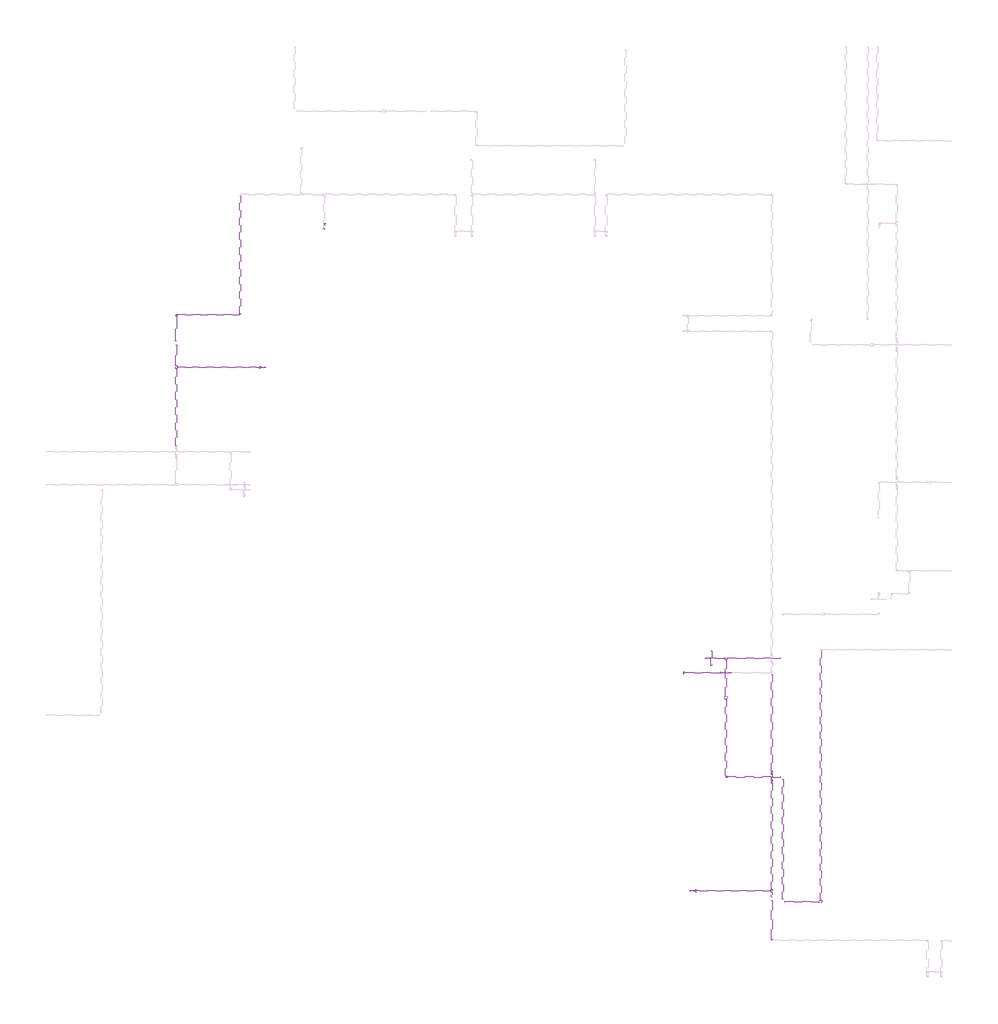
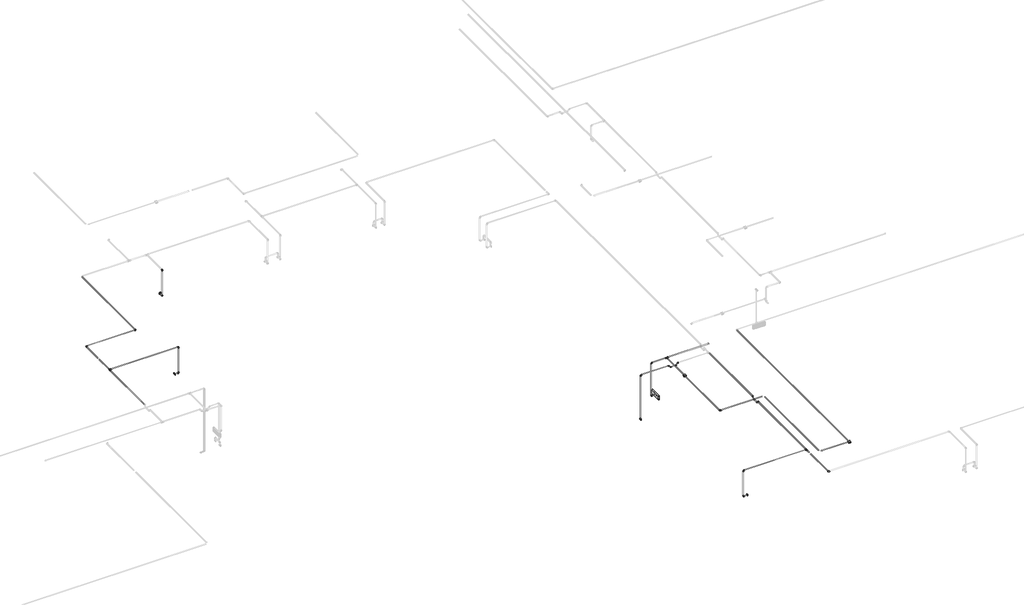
# One storey, part 8 of 40: 35 cable carrier segments, 24 cable carrier fittings, 4 electric appliances, 3 alarms.
"""IFC4 building model written with IfcOpenShell, lengths in millimetres."""

from ifc_helpers import new_model, si_unit, point, frame, frame_2d, origin, place, context, project, spatial, circle_curve, trimmed, segment, composite_curve, outline, extrude, transform, mapped, element, save
from components import alarm_4b7e8fd8, alarm_a2247946, cable_carrier_fitting_69f1a801, cable_carrier_fitting_8122f9af, cable_carrier_fitting_8fd13dfc, electric_appliance_5961a143

model = new_model("IFC4")

# Units and contexts
model_context = context("Model", 3, world=origin())
ifc_project = project(units=[si_unit("LENGTHUNIT", "METRE", prefix="MILLI")], contexts=[model_context])

# Site, building, storey
site = spatial("IfcSite", under=ifc_project)
building = spatial("IfcBuilding", under=site)
storey = spatial("IfcBuildingStorey", under=building, Name="1 этаж", Elevation=0.0)

# Alarms
placement = place(None, origin())
alarm_shape = alarm_4b7e8fd8(model_context)
element("IfcAlarm", 1, ObjectType="RBZ_Оповещатель_Световой_Рубеж_ОПОП1-R3(грань) : ОПОП 1-R3 \"Выход\"", at=placement, inside=storey, context=model_context, shape_type="MappedRepresentation", body=[
    mapped(alarm_shape, transform((5447.6759979, -8670.3629895, 2300.0), x_axis=(0.0, 1.0, 0.0), y_axis=(0.0, 0.0, 1.0), z_axis=(1.0, 0.0, 0.0))),
])
alarm_2_shape = alarm_a2247946(model_context)
element("IfcAlarm", 2, ObjectType="RBZ_ИзоляторШлейфа_Рубеж_ИЗ-1_прот.R3(плоскость) : ИЗ-1 прот.R3", at=placement, inside=storey, context=model_context, shape_type="MappedRepresentation", body=[
    mapped(alarm_2_shape, transform((7617.6759979, -13478.8629895, 3200.75), x_axis=(1.0, 0.0, 0.0), y_axis=(0.0, 1.0, 0.0), z_axis=(0.0, 0.0, 1.0))),
])
element("IfcAlarm", 3, ObjectType="RBZ_ИзоляторШлейфа_Рубеж_ИЗ-1_прот.R3(плоскость) : ИЗ-1 прот.R3", at=placement, inside=storey, context=model_context, shape_type="MappedRepresentation", body=[
    mapped(alarm_2_shape, transform((5748.4601249, -9451.8629895, 3200.75), x_axis=(1.0, 0.0, 0.0), y_axis=(0.0, 1.0, 0.0), z_axis=(0.0, 0.0, 1.0))),
])

# Cable carrier fittings
cable_carrier_fitting_shape = cable_carrier_fitting_69f1a801(model_context)
element("IfcCableCarrierFitting", 4, ObjectType="ADSK_Поворот_Минимальный размер : Неспецифицируемый", at=placement, inside=storey, context=model_context, shape_type="MappedRepresentation", body=[
    mapped(cable_carrier_fitting_shape, transform((5748.4601249, -11017.8629895, 3190.0), x_axis=(0.0, -1.0, 0.0), y_axis=(1.0, 0.0, 0.0), z_axis=(0.0, 0.0, 1.0))),
])
element("IfcCableCarrierFitting", 5, ObjectType="ADSK_Поворот_Минимальный размер : Неспецифицируемый", at=placement, inside=storey, context=model_context, shape_type="MappedRepresentation", body=[
    mapped(cable_carrier_fitting_shape, transform((5043.4761923, -13265.3629895, 2488.0911237), x_axis=(-1.0, 0.0, 0.0), y_axis=(0.0, 0.0, 1.0), z_axis=(0.0, 1.0, 0.0))),
])
element("IfcCableCarrierFitting", 6, ObjectType="ADSK_Поворот_Минимальный размер : Неспецифицируемый", at=placement, inside=storey, context=model_context, shape_type="MappedRepresentation", body=[
    mapped(cable_carrier_fitting_shape, transform((6652.6759979, -14242.3629895, 3187.0), x_axis=(0.0, -1.0, 0.0), y_axis=(1.0, 0.0, 0.0), z_axis=(0.0, 0.0, 1.0))),
])
element("IfcCableCarrierFitting", 7, ObjectType="ADSK_Поворот_Минимальный размер : Неспецифицируемый", at=placement, inside=storey, context=model_context, shape_type="MappedRepresentation", body=[
    mapped(cable_carrier_fitting_shape, transform((5350.4761923, -8670.3629895, 2300.0), x_axis=(-1.0, 0.0, 0.0), y_axis=(0.0, 0.0, 1.0), z_axis=(0.0, 1.0, 0.0))),
])
element("IfcCableCarrierFitting", 8, ObjectType="ADSK_Поворот_Минимальный размер : Неспецифицируемый", at=placement, inside=storey, context=model_context, shape_type="MappedRepresentation", body=[
    mapped(cable_carrier_fitting_shape, transform((5350.4761923, -8670.3629895, 3190.0), x_axis=(0.0, 0.0, 1.0), y_axis=(1.0, 0.0, 0.0), z_axis=(0.0, 1.0, 0.0))),
])
element("IfcCableCarrierFitting", 9, ObjectType="ADSK_Поворот_Минимальный размер : Неспецифицируемый", at=placement, inside=storey, context=model_context, shape_type="MappedRepresentation", body=[
    mapped(cable_carrier_fitting_shape, transform((-2197.3240021, -179.5627951, 2488.0911237), x_axis=(0.0, -1.0, 0.0), y_axis=(0.0, 0.0, 1.0), z_axis=(-1.0, 0.0, 0.0))),
])
element("IfcCableCarrierFitting", 10, ObjectType="ADSK_Поворот_Минимальный размер : Неспецифицируемый", at=placement, inside=storey, context=model_context, shape_type="MappedRepresentation", body=[
    mapped(cable_carrier_fitting_shape, transform((-2197.3240021, -179.5627951, 3187.0), x_axis=(0.0, 0.0, 1.0), y_axis=(0.0, 1.0, 0.0), z_axis=(-1.0, 0.0, 0.0))),
])
element("IfcCableCarrierFitting", 11, ObjectType="ADSK_Поворот_Минимальный размер : Неспецифицируемый", at=placement, inside=storey, context=model_context, shape_type="MappedRepresentation", body=[
    mapped(cable_carrier_fitting_shape, transform((-3368.1241965, -2922.8629895, 2488.0911237), x_axis=(1.0, 0.0, 0.0), y_axis=(0.0, 0.0, 1.0), z_axis=(0.0, -1.0, 0.0))),
])
element("IfcCableCarrierFitting", 12, ObjectType="ADSK_Поворот_Минимальный размер : Неспецифицируемый", at=placement, inside=storey, context=model_context, shape_type="MappedRepresentation", body=[
    mapped(cable_carrier_fitting_shape, transform((-5122.3240021, -1880.3629895, 3187.0), x_axis=(-1.0, 0.0, 0.0), y_axis=(0.0, -1.0, 0.0), z_axis=(0.0, 0.0, 1.0))),
])
element("IfcCableCarrierFitting", 13, ObjectType="ADSK_Поворот_Минимальный размер : Неспецифицируемый", at=placement, inside=storey, context=model_context, shape_type="MappedRepresentation", body=[
    mapped(cable_carrier_fitting_shape, transform((-3368.1241965, -2922.8629895, 3187.0), x_axis=(0.0, 0.0, 1.0), y_axis=(-1.0, 0.0, 0.0), z_axis=(0.0, -1.0, 0.0))),
])
element("IfcCableCarrierFitting", 14, ObjectType="ADSK_Поворот_Минимальный размер : Неспецифицируемый", at=placement, inside=storey, context=model_context, shape_type="MappedRepresentation", body=[
    mapped(cable_carrier_fitting_shape, transform((5043.4761923, -13265.3629895, 3187.0), x_axis=(0.0, 0.0, 1.0), y_axis=(1.0, 0.0, 0.0), z_axis=(0.0, 1.0, 0.0))),
])
element("IfcCableCarrierFitting", 15, ObjectType="ADSK_Поворот_Минимальный размер : Неспецифицируемый", at=placement, inside=storey, context=model_context, shape_type="MappedRepresentation", body=[
    mapped(cable_carrier_fitting_shape, transform((4914.6759979, -8957.6730001, 3187.0), x_axis=(0.0, 0.0, 1.0), y_axis=(1.0, 0.0, 0.0), z_axis=(0.0, 1.0, 0.0))),
])
element("IfcCableCarrierFitting", 16, ObjectType="ADSK_Поворот_Минимальный размер : Неспецифицируемый", at=placement, inside=storey, context=model_context, shape_type="MappedRepresentation", body=[
    mapped(cable_carrier_fitting_shape, transform((-3859.8800716, -1880.3629895, 3187.0), x_axis=(1.0, 0.0, 0.0), y_axis=(0.0, 1.0, 0.0), z_axis=(0.0, 0.0, 1.0))),
])
cable_carrier_fitting_2_shape = cable_carrier_fitting_8122f9af(model_context)
element("IfcCableCarrierFitting", 17, ObjectType="ADSK_Поворот_Минимальный размер : Неспецифицируемый", at=placement, inside=storey, context=model_context, shape_type="MappedRepresentation", body=[
    mapped(cable_carrier_fitting_2_shape, transform((6652.6759979, -10951.2907182, 3137.0), x_axis=(0.0, -0.7071067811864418, -0.7071067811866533), y_axis=(0.0, -0.7071067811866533, 0.7071067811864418), z_axis=(-1.0, 0.0, 0.0))),
])
element("IfcCableCarrierFitting", 18, ObjectType="ADSK_Поворот_Минимальный размер : Неспецифицируемый", at=placement, inside=storey, context=model_context, shape_type="MappedRepresentation", body=[
    mapped(cable_carrier_fitting_2_shape, transform((6652.6759979, -11084.4352607, 3137.0), x_axis=(0.0, -1.0, 0.0), y_axis=(0.0, 0.0, 1.0), z_axis=(-1.0, 0.0, 0.0))),
])
element("IfcCableCarrierFitting", 19, ObjectType="ADSK_Поворот_Минимальный размер : Неспецифицируемый", at=placement, inside=storey, context=model_context, shape_type="MappedRepresentation", body=[
    mapped(cable_carrier_fitting_2_shape, transform((5815.0323962, -8957.6730001, 3137.0), x_axis=(-0.7071067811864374, 0.0, -0.7071067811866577), y_axis=(-0.7071067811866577, 0.0, 0.7071067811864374), z_axis=(0.0, 1.0, 0.0))),
])
element("IfcCableCarrierFitting", 20, ObjectType="ADSK_Поворот_Минимальный размер : Неспецифицируемый", at=placement, inside=storey, context=model_context, shape_type="MappedRepresentation", body=[
    mapped(cable_carrier_fitting_2_shape, transform((5681.8878537, -8957.6730001, 3137.0), x_axis=(-1.0, 0.0, 0.0), y_axis=(0.0, 0.0, 1.0), z_axis=(0.0, 1.0, 0.0))),
])
element("IfcCableCarrierFitting", 21, ObjectType="ADSK_Поворот_Минимальный размер : Неспецифицируемый", at=placement, inside=storey, context=model_context, shape_type="MappedRepresentation", body=[
    mapped(cable_carrier_fitting_2_shape, transform((5631.8878537, -8957.6730001, 3187.0), x_axis=(-0.7071067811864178, 0.0, 0.7071067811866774), y_axis=(-0.7071067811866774, 0.0, -0.7071067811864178), z_axis=(0.0, -1.0, 0.0))),
])
element("IfcCableCarrierFitting", 22, ObjectType="ADSK_Поворот_Минимальный размер : Неспецифицируемый", at=placement, inside=storey, context=model_context, shape_type="MappedRepresentation", body=[
    mapped(cable_carrier_fitting_2_shape, transform((6652.6759979, -10901.2907182, 3187.0), x_axis=(0.0, 0.7071067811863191, 0.707106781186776), y_axis=(0.0, 0.707106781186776, -0.7071067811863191), z_axis=(-1.0, 0.0, 0.0))),
])
element("IfcCableCarrierFitting", 23, ObjectType="ADSK_Поворот_Минимальный размер : Неспецифицируемый", at=placement, inside=storey, context=model_context, shape_type="MappedRepresentation", body=[
    mapped(cable_carrier_fitting_2_shape, transform((5865.0323962, -8957.6730001, 3187.0), x_axis=(0.7071067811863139, 0.0, 0.7071067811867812), y_axis=(0.7071067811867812, 0.0, -0.7071067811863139), z_axis=(0.0, 1.0, 0.0))),
])
element("IfcCableCarrierFitting", 24, ObjectType="ADSK_Поворот_Минимальный размер : Неспецифицируемый", at=placement, inside=storey, context=model_context, shape_type="MappedRepresentation", body=[
    mapped(cable_carrier_fitting_2_shape, transform((6652.6759979, -11134.4352607, 3187.0), x_axis=(0.0, -0.7071067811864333, 0.7071067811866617), y_axis=(0.0, -0.7071067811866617, -0.7071067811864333), z_axis=(1.0, 0.0, 0.0))),
])
cable_carrier_fitting_3_shape = cable_carrier_fitting_8fd13dfc(model_context)
element("IfcCableCarrierFitting", 25, ObjectType="ADSK_Тройник : ПВХ", at=placement, inside=storey, context=model_context, shape_type="MappedRepresentation", body=[
    mapped(cable_carrier_fitting_3_shape, transform((5748.4601249, -8670.3629895, 3190.0), x_axis=(1.0, 0.0, 0.0), y_axis=(0.0, 1.0, 0.0), z_axis=(0.0, 0.0, 1.0))),
])
element("IfcCableCarrierFitting", 26, ObjectType="ADSK_Тройник : ПВХ", at=placement, inside=storey, context=model_context, shape_type="MappedRepresentation", body=[
    mapped(cable_carrier_fitting_3_shape, transform((-5122.3240021, -2922.8629895, 3187.0), x_axis=(0.0, 1.0, 0.0), y_axis=(-1.0, 0.0, 0.0), z_axis=(0.0, 0.0, 1.0))),
])
element("IfcCableCarrierFitting", 27, ObjectType="ADSK_Тройник : ПВХ", at=placement, inside=storey, context=model_context, shape_type="MappedRepresentation", body=[
    mapped(cable_carrier_fitting_3_shape, transform((6652.6759979, -13265.3629895, 3187.0), x_axis=(0.0, -1.0, 0.0), y_axis=(1.0, 0.0, 0.0), z_axis=(0.0, 0.0, 1.0))),
])

# Cable carrier segments
element("IfcCableCarrierSegment", 28, ObjectType="Гофрированная труба", at=placement, inside=storey, context=model_context, shape_type="SweptSolid", body=[
    extrude(outline(composite_curve([segment(trimmed(circle_curve(frame_2d((-13478.8629895, 3190.0)), 10.0), [point((-13468.8629895, 3190.0))], [point((-13478.8629895, 3180.0))], False, "CARTESIAN"), True, "CONTINUOUS"), segment(trimmed(circle_curve(frame_2d((-13478.8629895, 3190.0)), 10.0), [point((-13478.8629895, 3180.0))], [point((-13488.8629895, 3190.0))], False, "CARTESIAN"), True, "CONTINUOUS"), segment(trimmed(circle_curve(frame_2d((-13478.8629895, 3190.0)), 10.0), [point((-13488.8629895, 3190.0))], [point((-13478.8629895, 3200.0))], False, "CARTESIAN"), True, "CONTINUOUS"), segment(trimmed(circle_curve(frame_2d((-13478.8629895, 3190.0)), 10.0), [point((-13478.8629895, 3200.0))], [point((-13468.8629895, 3190.0))], False, "CARTESIAN"), True, "CONTINUOUS")], self_intersect=False)), frame((6914.1759979, 0.0, 0.0), z_axis=(1.0, 0.0, 0.0), x_axis=(0.0, 1.0, 0.0)), (0.0, 0.0, 1.0), 677.5),
])
element("IfcCableCarrierSegment", 29, ObjectType="Гофрированная труба", at=placement, inside=storey, context=model_context, shape_type="SweptSolid", body=[
    extrude(outline(composite_curve([segment(trimmed(circle_curve(frame_2d((3190.0, 7617.6759979)), 10.0), [point((3190.0, 7627.6759979))], [point((3200.0, 7617.6759979))], False, "CARTESIAN"), True, "CONTINUOUS"), segment(trimmed(circle_curve(frame_2d((3190.0, 7617.6759979)), 10.0), [point((3200.0, 7617.6759979))], [point((3190.0, 7607.6759979))], False, "CARTESIAN"), True, "CONTINUOUS"), segment(trimmed(circle_curve(frame_2d((3190.0, 7617.6759979)), 10.0), [point((3190.0, 7607.6759979))], [point((3180.0, 7617.6759979))], False, "CARTESIAN"), True, "CONTINUOUS"), segment(trimmed(circle_curve(frame_2d((3190.0, 7617.6759979)), 10.0), [point((3180.0, 7617.6759979))], [point((3190.0, 7627.6759979))], False, "CARTESIAN"), True, "CONTINUOUS")], self_intersect=False)), frame((0.0, -13452.8629895, 0.0), z_axis=(0.0, 1.0, 0.0), x_axis=(0.0, 0.0, 1.0)), (0.0, 0.0, 1.0), 4926.5),
])
element("IfcCableCarrierSegment", 30, ObjectType="Гофрированная труба", at=placement, inside=storey, context=model_context, shape_type="SweptSolid", body=[
    extrude(outline(composite_curve([segment(trimmed(circle_curve(frame_2d((-11017.8629895, 3190.0)), 10.0), [point((-11007.8629895, 3190.0))], [point((-11017.8629895, 3180.0))], False, "CARTESIAN"), True, "CONTINUOUS"), segment(trimmed(circle_curve(frame_2d((-11017.8629895, 3190.0)), 10.0), [point((-11017.8629895, 3180.0))], [point((-11027.8629895, 3190.0))], False, "CARTESIAN"), True, "CONTINUOUS"), segment(trimmed(circle_curve(frame_2d((-11017.8629895, 3190.0)), 10.0), [point((-11027.8629895, 3190.0))], [point((-11017.8629895, 3200.0))], False, "CARTESIAN"), True, "CONTINUOUS"), segment(trimmed(circle_curve(frame_2d((-11017.8629895, 3190.0)), 10.0), [point((-11017.8629895, 3200.0))], [point((-11007.8629895, 3190.0))], False, "CARTESIAN"), True, "CONTINUOUS")], self_intersect=False)), frame((5769.4601249, 0.0, 0.0), z_axis=(1.0, 0.0, 0.0), x_axis=(0.0, 1.0, 0.0)), (0.0, 0.0, 1.0), 1051.715873),
])
element("IfcCableCarrierSegment", 31, ObjectType="Гофрированная труба", at=placement, inside=storey, context=model_context, shape_type="SweptSolid", body=[
    extrude(outline(composite_curve([segment(trimmed(circle_curve(frame_2d((3190.0, 5748.4601249)), 10.0), [point((3190.0, 5738.4601249))], [point((3180.0, 5748.4601249))], False, "CARTESIAN"), True, "CONTINUOUS"), segment(trimmed(circle_curve(frame_2d((3190.0, 5748.4601249)), 10.0), [point((3180.0, 5748.4601249))], [point((3190.0, 5758.4601249))], False, "CARTESIAN"), True, "CONTINUOUS"), segment(trimmed(circle_curve(frame_2d((3190.0, 5748.4601249)), 10.0), [point((3190.0, 5758.4601249))], [point((3200.0, 5748.4601249))], False, "CARTESIAN"), True, "CONTINUOUS"), segment(trimmed(circle_curve(frame_2d((3190.0, 5748.4601249)), 10.0), [point((3200.0, 5748.4601249))], [point((3190.0, 5738.4601249))], False, "CARTESIAN"), True, "CONTINUOUS")], self_intersect=False)), frame((0.0, -9425.8629895, 0.0), z_axis=(0.0, 1.0, 0.0), x_axis=(0.0, 0.0, 1.0)), (0.0, 0.0, 1.0), 725.5),
])
element("IfcCableCarrierSegment", 32, ObjectType="Гофрированная труба", at=placement, inside=storey, context=model_context, shape_type="SweptSolid", body=[
    extrude(outline(composite_curve([segment(trimmed(circle_curve(frame_2d((-8670.3629895, 3190.0)), 10.0), [point((-8660.3629895, 3190.0))], [point((-8670.3629895, 3180.0))], False, "CARTESIAN"), True, "CONTINUOUS"), segment(trimmed(circle_curve(frame_2d((-8670.3629895, 3190.0)), 10.0), [point((-8670.3629895, 3180.0))], [point((-8680.3629895, 3190.0))], False, "CARTESIAN"), True, "CONTINUOUS"), segment(trimmed(circle_curve(frame_2d((-8670.3629895, 3190.0)), 10.0), [point((-8680.3629895, 3190.0))], [point((-8670.3629895, 3200.0))], False, "CARTESIAN"), True, "CONTINUOUS"), segment(trimmed(circle_curve(frame_2d((-8670.3629895, 3190.0)), 10.0), [point((-8670.3629895, 3200.0))], [point((-8660.3629895, 3190.0))], False, "CARTESIAN"), True, "CONTINUOUS")], self_intersect=False)), frame((5778.4601249, 0.0, 0.0), z_axis=(1.0, 0.0, 0.0), x_axis=(0.0, 1.0, 0.0)), (0.0, 0.0, 1.0), 1042.715873),
])
element("IfcCableCarrierSegment", 33, ObjectType="Гофрированная труба", at=placement, inside=storey, context=model_context, shape_type="SweptSolid", body=[
    extrude(outline(composite_curve([segment(trimmed(circle_curve(frame_2d((3190.0, 5748.4601249)), 10.0), [point((3190.0, 5758.4601249))], [point((3200.0, 5748.4601249))], False, "CARTESIAN"), True, "CONTINUOUS"), segment(trimmed(circle_curve(frame_2d((3190.0, 5748.4601249)), 10.0), [point((3200.0, 5748.4601249))], [point((3190.0, 5738.4601249))], False, "CARTESIAN"), True, "CONTINUOUS"), segment(trimmed(circle_curve(frame_2d((3190.0, 5748.4601249)), 10.0), [point((3190.0, 5738.4601249))], [point((3180.0, 5748.4601249))], False, "CARTESIAN"), True, "CONTINUOUS"), segment(trimmed(circle_curve(frame_2d((3190.0, 5748.4601249)), 10.0), [point((3180.0, 5748.4601249))], [point((3190.0, 5758.4601249))], False, "CARTESIAN"), True, "CONTINUOUS")], self_intersect=False)), frame((0.0, -10996.8629895, 0.0), z_axis=(0.0, 1.0, 0.0), x_axis=(0.0, 0.0, 1.0)), (0.0, 0.0, 1.0), 1519.0),
])
element("IfcCableCarrierSegment", 34, ObjectType="Гофрированная труба", at=placement, inside=storey, context=model_context, shape_type="SweptSolid", body=[
    extrude(outline(composite_curve([segment(trimmed(circle_curve(frame_2d((3190.0, 6867.6759979)), 10.0), [point((3190.0, 6857.6759979))], [point((3180.0, 6867.6759979))], False, "CARTESIAN"), True, "CONTINUOUS"), segment(trimmed(circle_curve(frame_2d((3190.0, 6867.6759979)), 10.0), [point((3180.0, 6867.6759979))], [point((3190.0, 6877.6759979))], False, "CARTESIAN"), True, "CONTINUOUS"), segment(trimmed(circle_curve(frame_2d((3190.0, 6867.6759979)), 10.0), [point((3190.0, 6877.6759979))], [point((3200.0, 6867.6759979))], False, "CARTESIAN"), True, "CONTINUOUS"), segment(trimmed(circle_curve(frame_2d((3190.0, 6867.6759979)), 10.0), [point((3200.0, 6867.6759979))], [point((3190.0, 6857.6759979))], False, "CARTESIAN"), True, "CONTINUOUS")], self_intersect=False)), frame((0.0, -13432.3629895, 0.0), z_axis=(0.0, 1.0, 0.0), x_axis=(0.0, 0.0, 1.0)), (0.0, 0.0, 1.0), 2368.0),
])
element("IfcCableCarrierSegment", 35, ObjectType="Гофрированная труба", at=placement, inside=storey, context=model_context, shape_type="SweptSolid", body=[
    extrude(outline(composite_curve([segment(trimmed(circle_curve(frame_2d((-13265.3629895, 3187.0)), 10.0), [point((-13275.3629895, 3187.0))], [point((-13265.3629895, 3197.0))], False, "CARTESIAN"), True, "CONTINUOUS"), segment(trimmed(circle_curve(frame_2d((-13265.3629895, 3187.0)), 10.0), [point((-13265.3629895, 3197.0))], [point((-13255.3629895, 3187.0))], False, "CARTESIAN"), True, "CONTINUOUS"), segment(trimmed(circle_curve(frame_2d((-13265.3629895, 3187.0)), 10.0), [point((-13255.3629895, 3187.0))], [point((-13265.3629895, 3177.0))], False, "CARTESIAN"), True, "CONTINUOUS"), segment(trimmed(circle_curve(frame_2d((-13265.3629895, 3187.0)), 10.0), [point((-13265.3629895, 3177.0))], [point((-13275.3629895, 3187.0))], False, "CARTESIAN"), True, "CONTINUOUS")], self_intersect=False)), frame((5064.4761923, 0.0, 0.0), z_axis=(1.0, 0.0, 0.0), x_axis=(0.0, 1.0, 0.0)), (0.0, 0.0, 1.0), 1558.1998056),
])
element("IfcCableCarrierSegment", 36, ObjectType="Гофрированная труба", at=placement, inside=storey, context=model_context, shape_type="SweptSolid", body=[
    extrude(outline(composite_curve([segment(trimmed(circle_curve(frame_2d((-13265.3629895, 2488.0911237)), 10.0), [point((-13255.3629895, 2488.0911237))], [point((-13265.3629895, 2478.0911237))], False, "CARTESIAN"), True, "CONTINUOUS"), segment(trimmed(circle_curve(frame_2d((-13265.3629895, 2488.0911237)), 10.0), [point((-13265.3629895, 2478.0911237))], [point((-13275.3629895, 2488.0911237))], False, "CARTESIAN"), True, "CONTINUOUS"), segment(trimmed(circle_curve(frame_2d((-13265.3629895, 2488.0911237)), 10.0), [point((-13275.3629895, 2488.0911237))], [point((-13265.3629895, 2498.0911237))], False, "CARTESIAN"), True, "CONTINUOUS"), segment(trimmed(circle_curve(frame_2d((-13265.3629895, 2488.0911237)), 10.0), [point((-13265.3629895, 2498.0911237))], [point((-13255.3629895, 2488.0911237))], False, "CARTESIAN"), True, "CONTINUOUS")], self_intersect=False)), frame((5064.4761923, 0.0, 0.0), z_axis=(1.0, 0.0, 0.0), x_axis=(0.0, 1.0, 0.0)), (0.0, 0.0, 1.0), 76.1998056),
])
element("IfcCableCarrierSegment", 37, ObjectType="Гофрированная труба", at=placement, inside=storey, context=model_context, shape_type="SweptSolid", body=[
    extrude(outline(composite_curve([segment(trimmed(circle_curve(frame_2d((5043.4761923, -13265.3629895)), 10.0), [point((5033.4761923, -13265.3629895))], [point((5043.4761923, -13255.3629895))], False, "CARTESIAN"), True, "CONTINUOUS"), segment(trimmed(circle_curve(frame_2d((5043.4761923, -13265.3629895)), 10.0), [point((5043.4761923, -13255.3629895))], [point((5053.4761923, -13265.3629895))], False, "CARTESIAN"), True, "CONTINUOUS"), segment(trimmed(circle_curve(frame_2d((5043.4761923, -13265.3629895)), 10.0), [point((5053.4761923, -13265.3629895))], [point((5043.4761923, -13275.3629895))], False, "CARTESIAN"), True, "CONTINUOUS"), segment(trimmed(circle_curve(frame_2d((5043.4761923, -13265.3629895)), 10.0), [point((5043.4761923, -13275.3629895))], [point((5033.4761923, -13265.3629895))], False, "CARTESIAN"), True, "CONTINUOUS")], self_intersect=False)), frame((0.0, 0.0, 2509.0911237), z_axis=(0.0, 0.0, 1.0), x_axis=(1.0, 0.0, 0.0)), (0.0, 0.0, 1.0), 656.9088763),
])
element("IfcCableCarrierSegment", 38, ObjectType="Гофрированная труба", at=placement, inside=storey, context=model_context, shape_type="SweptSolid", body=[
    extrude(outline(composite_curve([segment(trimmed(circle_curve(frame_2d((3187.0, 6652.6759979)), 10.0), [point((3187.0, 6642.6759979))], [point((3177.0, 6652.6759979))], False, "CARTESIAN"), True, "CONTINUOUS"), segment(trimmed(circle_curve(frame_2d((3187.0, 6652.6759979)), 10.0), [point((3177.0, 6652.6759979))], [point((3187.0, 6662.6759979))], False, "CARTESIAN"), True, "CONTINUOUS"), segment(trimmed(circle_curve(frame_2d((3187.0, 6652.6759979)), 10.0), [point((3187.0, 6662.6759979))], [point((3197.0, 6652.6759979))], False, "CARTESIAN"), True, "CONTINUOUS"), segment(trimmed(circle_curve(frame_2d((3187.0, 6652.6759979)), 10.0), [point((3197.0, 6652.6759979))], [point((3187.0, 6642.6759979))], False, "CARTESIAN"), True, "CONTINUOUS")], self_intersect=False)), frame((0.0, -14221.3629895, 0.0), z_axis=(0.0, 1.0, 0.0), x_axis=(0.0, 0.0, 1.0)), (0.0, 0.0, 1.0), 763.5),
])
element("IfcCableCarrierSegment", 39, ObjectType="Гофрированная труба", at=placement, inside=storey, context=model_context, shape_type="SweptSolid", body=[
    extrude(outline(composite_curve([segment(trimmed(circle_curve(frame_2d((-8670.3629895, 3190.0)), 10.0), [point((-8660.3629895, 3190.0))], [point((-8670.3629895, 3180.0))], False, "CARTESIAN"), True, "CONTINUOUS"), segment(trimmed(circle_curve(frame_2d((-8670.3629895, 3190.0)), 10.0), [point((-8670.3629895, 3180.0))], [point((-8680.3629895, 3190.0))], False, "CARTESIAN"), True, "CONTINUOUS"), segment(trimmed(circle_curve(frame_2d((-8670.3629895, 3190.0)), 10.0), [point((-8680.3629895, 3190.0))], [point((-8670.3629895, 3200.0))], False, "CARTESIAN"), True, "CONTINUOUS"), segment(trimmed(circle_curve(frame_2d((-8670.3629895, 3190.0)), 10.0), [point((-8670.3629895, 3200.0))], [point((-8660.3629895, 3190.0))], False, "CARTESIAN"), True, "CONTINUOUS")], self_intersect=False)), frame((5371.4761923, 0.0, 0.0), z_axis=(1.0, 0.0, 0.0), x_axis=(0.0, 1.0, 0.0)), (0.0, 0.0, 1.0), 346.9839326),
])
element("IfcCableCarrierSegment", 40, ObjectType="Гофрированная труба", at=placement, inside=storey, context=model_context, shape_type="SweptSolid", body=[
    extrude(outline(composite_curve([segment(trimmed(circle_curve(frame_2d((-8670.3629895, 2300.0)), 10.0), [point((-8660.3629895, 2300.0))], [point((-8670.3629895, 2290.0))], False, "CARTESIAN"), True, "CONTINUOUS"), segment(trimmed(circle_curve(frame_2d((-8670.3629895, 2300.0)), 10.0), [point((-8670.3629895, 2290.0))], [point((-8680.3629895, 2300.0))], False, "CARTESIAN"), True, "CONTINUOUS"), segment(trimmed(circle_curve(frame_2d((-8670.3629895, 2300.0)), 10.0), [point((-8680.3629895, 2300.0))], [point((-8670.3629895, 2310.0))], False, "CARTESIAN"), True, "CONTINUOUS"), segment(trimmed(circle_curve(frame_2d((-8670.3629895, 2300.0)), 10.0), [point((-8670.3629895, 2310.0))], [point((-8660.3629895, 2300.0))], False, "CARTESIAN"), True, "CONTINUOUS")], self_intersect=False)), frame((5371.4761923, 0.0, 0.0), z_axis=(1.0, 0.0, 0.0), x_axis=(0.0, 1.0, 0.0)), (0.0, 0.0, 1.0), 76.1998056),
])
element("IfcCableCarrierSegment", 41, ObjectType="Гофрированная труба", at=placement, inside=storey, context=model_context, shape_type="SweptSolid", body=[
    extrude(outline(composite_curve([segment(trimmed(circle_curve(frame_2d((5350.4761923, -8670.3629895)), 10.0), [point((5340.4761923, -8670.3629895))], [point((5350.4761923, -8660.3629895))], False, "CARTESIAN"), True, "CONTINUOUS"), segment(trimmed(circle_curve(frame_2d((5350.4761923, -8670.3629895)), 10.0), [point((5350.4761923, -8660.3629895))], [point((5360.4761923, -8670.3629895))], False, "CARTESIAN"), True, "CONTINUOUS"), segment(trimmed(circle_curve(frame_2d((5350.4761923, -8670.3629895)), 10.0), [point((5360.4761923, -8670.3629895))], [point((5350.4761923, -8680.3629895))], False, "CARTESIAN"), True, "CONTINUOUS"), segment(trimmed(circle_curve(frame_2d((5350.4761923, -8670.3629895)), 10.0), [point((5350.4761923, -8680.3629895))], [point((5340.4761923, -8670.3629895))], False, "CARTESIAN"), True, "CONTINUOUS")], self_intersect=False)), frame((0.0, 0.0, 2321.0), z_axis=(0.0, 0.0, 1.0), x_axis=(1.0, 0.0, 0.0)), (0.0, 0.0, 1.0), 848.0),
])
element("IfcCableCarrierSegment", 42, ObjectType="Гофрированная труба", at=placement, inside=storey, context=model_context, shape_type="SweptSolid", body=[
    extrude(outline(composite_curve([segment(trimmed(circle_curve(frame_2d((2488.0911237, -2197.3240021)), 10.0), [point((2488.0911237, -2207.3240021))], [point((2478.0911237, -2197.3240021))], False, "CARTESIAN"), True, "CONTINUOUS"), segment(trimmed(circle_curve(frame_2d((2488.0911237, -2197.3240021)), 10.0), [point((2478.0911237, -2197.3240021))], [point((2488.0911237, -2187.3240021))], False, "CARTESIAN"), True, "CONTINUOUS"), segment(trimmed(circle_curve(frame_2d((2488.0911237, -2197.3240021)), 10.0), [point((2488.0911237, -2187.3240021))], [point((2498.0911237, -2197.3240021))], False, "CARTESIAN"), True, "CONTINUOUS"), segment(trimmed(circle_curve(frame_2d((2488.0911237, -2197.3240021)), 10.0), [point((2498.0911237, -2197.3240021))], [point((2488.0911237, -2207.3240021))], False, "CARTESIAN"), True, "CONTINUOUS")], self_intersect=False)), frame((0.0, -158.5627951, 0.0), z_axis=(0.0, 1.0, 0.0), x_axis=(0.0, 0.0, 1.0)), (0.0, 0.0, 1.0), 76.1998056),
])
element("IfcCableCarrierSegment", 43, ObjectType="Гофрированная труба", at=placement, inside=storey, context=model_context, shape_type="SweptSolid", body=[
    extrude(outline(composite_curve([segment(trimmed(circle_curve(frame_2d((-2197.3240021, -179.5627951)), 10.0), [point((-2207.3240021, -179.5627951))], [point((-2197.3240021, -169.5627951))], False, "CARTESIAN"), True, "CONTINUOUS"), segment(trimmed(circle_curve(frame_2d((-2197.3240021, -179.5627951)), 10.0), [point((-2197.3240021, -169.5627951))], [point((-2187.3240021, -179.5627951))], False, "CARTESIAN"), True, "CONTINUOUS"), segment(trimmed(circle_curve(frame_2d((-2197.3240021, -179.5627951)), 10.0), [point((-2187.3240021, -179.5627951))], [point((-2197.3240021, -189.5627951))], False, "CARTESIAN"), True, "CONTINUOUS"), segment(trimmed(circle_curve(frame_2d((-2197.3240021, -179.5627951)), 10.0), [point((-2197.3240021, -189.5627951))], [point((-2207.3240021, -179.5627951))], False, "CARTESIAN"), True, "CONTINUOUS")], self_intersect=False)), frame((0.0, 0.0, 2509.0911237), z_axis=(0.0, 0.0, 1.0), x_axis=(1.0, 0.0, 0.0)), (0.0, 0.0, 1.0), 656.9088763),
])
element("IfcCableCarrierSegment", 44, ObjectType="Гофрированная труба", at=placement, inside=storey, context=model_context, shape_type="SweptSolid", body=[
    extrude(outline(composite_curve([segment(trimmed(circle_curve(frame_2d((3187.0, -3859.8800716)), 10.0), [point((3187.0, -3849.8800716))], [point((3197.0, -3859.8800716))], False, "CARTESIAN"), True, "CONTINUOUS"), segment(trimmed(circle_curve(frame_2d((3187.0, -3859.8800716)), 10.0), [point((3197.0, -3859.8800716))], [point((3187.0, -3869.8800716))], False, "CARTESIAN"), True, "CONTINUOUS"), segment(trimmed(circle_curve(frame_2d((3187.0, -3859.8800716)), 10.0), [point((3187.0, -3869.8800716))], [point((3177.0, -3859.8800716))], False, "CARTESIAN"), True, "CONTINUOUS"), segment(trimmed(circle_curve(frame_2d((3187.0, -3859.8800716)), 10.0), [point((3177.0, -3859.8800716))], [point((3187.0, -3849.8800716))], False, "CARTESIAN"), True, "CONTINUOUS")], self_intersect=False)), frame((0.0, -1859.3629895, 0.0), z_axis=(0.0, 1.0, 0.0), x_axis=(0.0, 0.0, 1.0)), (0.0, 0.0, 1.0), 2333.0),
])
element("IfcCableCarrierSegment", 45, ObjectType="Гофрированная труба", at=placement, inside=storey, context=model_context, shape_type="SweptSolid", body=[
    extrude(outline(composite_curve([segment(trimmed(circle_curve(frame_2d((-2922.8629895, 3187.0)), 10.0), [point((-2912.8629895, 3187.0))], [point((-2922.8629895, 3177.0))], False, "CARTESIAN"), True, "CONTINUOUS"), segment(trimmed(circle_curve(frame_2d((-2922.8629895, 3187.0)), 10.0), [point((-2922.8629895, 3177.0))], [point((-2932.8629895, 3187.0))], False, "CARTESIAN"), True, "CONTINUOUS"), segment(trimmed(circle_curve(frame_2d((-2922.8629895, 3187.0)), 10.0), [point((-2932.8629895, 3187.0))], [point((-2922.8629895, 3197.0))], False, "CARTESIAN"), True, "CONTINUOUS"), segment(trimmed(circle_curve(frame_2d((-2922.8629895, 3187.0)), 10.0), [point((-2922.8629895, 3197.0))], [point((-2912.8629895, 3187.0))], False, "CARTESIAN"), True, "CONTINUOUS")], self_intersect=False)), frame((-5092.3240021, 0.0, 0.0), z_axis=(1.0, 0.0, 0.0), x_axis=(0.0, 1.0, 0.0)), (0.0, 0.0, 1.0), 1703.1998056),
])
element("IfcCableCarrierSegment", 46, ObjectType="Гофрированная труба", at=placement, inside=storey, context=model_context, shape_type="SweptSolid", body=[
    extrude(outline(composite_curve([segment(trimmed(circle_curve(frame_2d((-2922.8629895, 2488.0911237)), 10.0), [point((-2932.8629895, 2488.0911237))], [point((-2922.8629895, 2498.0911237))], False, "CARTESIAN"), True, "CONTINUOUS"), segment(trimmed(circle_curve(frame_2d((-2922.8629895, 2488.0911237)), 10.0), [point((-2922.8629895, 2498.0911237))], [point((-2912.8629895, 2488.0911237))], False, "CARTESIAN"), True, "CONTINUOUS"), segment(trimmed(circle_curve(frame_2d((-2922.8629895, 2488.0911237)), 10.0), [point((-2912.8629895, 2488.0911237))], [point((-2922.8629895, 2478.0911237))], False, "CARTESIAN"), True, "CONTINUOUS"), segment(trimmed(circle_curve(frame_2d((-2922.8629895, 2488.0911237)), 10.0), [point((-2922.8629895, 2478.0911237))], [point((-2932.8629895, 2488.0911237))], False, "CARTESIAN"), True, "CONTINUOUS")], self_intersect=False)), frame((-3465.3240021, 0.0, 0.0), z_axis=(1.0, 0.0, 0.0), x_axis=(0.0, 1.0, 0.0)), (0.0, 0.0, 1.0), 76.1998056),
])
element("IfcCableCarrierSegment", 47, ObjectType="Гофрированная труба", at=placement, inside=storey, context=model_context, shape_type="SweptSolid", body=[
    extrude(outline(composite_curve([segment(trimmed(circle_curve(frame_2d((-3368.1241965, -2922.8629895)), 10.0), [point((-3378.1241965, -2922.8629895))], [point((-3368.1241965, -2912.8629895))], False, "CARTESIAN"), True, "CONTINUOUS"), segment(trimmed(circle_curve(frame_2d((-3368.1241965, -2922.8629895)), 10.0), [point((-3368.1241965, -2912.8629895))], [point((-3358.1241965, -2922.8629895))], False, "CARTESIAN"), True, "CONTINUOUS"), segment(trimmed(circle_curve(frame_2d((-3368.1241965, -2922.8629895)), 10.0), [point((-3358.1241965, -2922.8629895))], [point((-3368.1241965, -2932.8629895))], False, "CARTESIAN"), True, "CONTINUOUS"), segment(trimmed(circle_curve(frame_2d((-3368.1241965, -2922.8629895)), 10.0), [point((-3368.1241965, -2932.8629895))], [point((-3378.1241965, -2922.8629895))], False, "CARTESIAN"), True, "CONTINUOUS")], self_intersect=False)), frame((0.0, 0.0, 2509.0911237), z_axis=(0.0, 0.0, 1.0), x_axis=(1.0, 0.0, 0.0)), (0.0, 0.0, 1.0), 656.9088763),
])
element("IfcCableCarrierSegment", 48, ObjectType="Гофрированная труба", at=placement, inside=storey, context=model_context, shape_type="SweptSolid", body=[
    extrude(outline(composite_curve([segment(trimmed(circle_curve(frame_2d((-1880.3629895, 3187.0)), 10.0), [point((-1890.3629895, 3187.0))], [point((-1880.3629895, 3197.0))], False, "CARTESIAN"), True, "CONTINUOUS"), segment(trimmed(circle_curve(frame_2d((-1880.3629895, 3187.0)), 10.0), [point((-1880.3629895, 3197.0))], [point((-1870.3629895, 3187.0))], False, "CARTESIAN"), True, "CONTINUOUS"), segment(trimmed(circle_curve(frame_2d((-1880.3629895, 3187.0)), 10.0), [point((-1870.3629895, 3187.0))], [point((-1880.3629895, 3177.0))], False, "CARTESIAN"), True, "CONTINUOUS"), segment(trimmed(circle_curve(frame_2d((-1880.3629895, 3187.0)), 10.0), [point((-1880.3629895, 3177.0))], [point((-1890.3629895, 3187.0))], False, "CARTESIAN"), True, "CONTINUOUS")], self_intersect=False)), frame((-5101.3240021, 0.0, 0.0), z_axis=(1.0, 0.0, 0.0), x_axis=(0.0, 1.0, 0.0)), (0.0, 0.0, 1.0), 1220.4439305),
])
element("IfcCableCarrierSegment", 49, ObjectType="Гофрированная труба", at=placement, inside=storey, context=model_context, shape_type="SweptSolid", body=[
    extrude(outline(composite_curve([segment(trimmed(circle_curve(frame_2d((3187.0, -5122.3240021)), 10.0), [point((3187.0, -5112.3240021))], [point((3197.0, -5122.3240021))], False, "CARTESIAN"), True, "CONTINUOUS"), segment(trimmed(circle_curve(frame_2d((3187.0, -5122.3240021)), 10.0), [point((3197.0, -5122.3240021))], [point((3187.0, -5132.3240021))], False, "CARTESIAN"), True, "CONTINUOUS"), segment(trimmed(circle_curve(frame_2d((3187.0, -5122.3240021)), 10.0), [point((3187.0, -5132.3240021))], [point((3177.0, -5122.3240021))], False, "CARTESIAN"), True, "CONTINUOUS"), segment(trimmed(circle_curve(frame_2d((3187.0, -5122.3240021)), 10.0), [point((3177.0, -5122.3240021))], [point((3187.0, -5112.3240021))], False, "CARTESIAN"), True, "CONTINUOUS")], self_intersect=False)), frame((0.0, -2407.8629895, 0.0), z_axis=(0.0, 1.0, 0.0), x_axis=(0.0, 0.0, 1.0)), (0.0, 0.0, 1.0), 506.5),
])
element("IfcCableCarrierSegment", 50, ObjectType="Гофрированная труба", at=placement, inside=storey, context=model_context, shape_type="SweptSolid", body=[
    extrude(outline(composite_curve([segment(trimmed(circle_curve(frame_2d((3187.0, -5122.3240021)), 10.0), [point((3187.0, -5132.3240021))], [point((3177.0, -5122.3240021))], False, "CARTESIAN"), True, "CONTINUOUS"), segment(trimmed(circle_curve(frame_2d((3187.0, -5122.3240021)), 10.0), [point((3177.0, -5122.3240021))], [point((3187.0, -5112.3240021))], False, "CARTESIAN"), True, "CONTINUOUS"), segment(trimmed(circle_curve(frame_2d((3187.0, -5122.3240021)), 10.0), [point((3187.0, -5112.3240021))], [point((3197.0, -5122.3240021))], False, "CARTESIAN"), True, "CONTINUOUS"), segment(trimmed(circle_curve(frame_2d((3187.0, -5122.3240021)), 10.0), [point((3197.0, -5122.3240021))], [point((3187.0, -5132.3240021))], False, "CARTESIAN"), True, "CONTINUOUS")], self_intersect=False)), frame((0.0, -2892.8629895, 0.0), z_axis=(0.0, 1.0, 0.0), x_axis=(0.0, 0.0, 1.0)), (0.0, 0.0, 1.0), 420.0382172),
])
element("IfcCableCarrierSegment", 51, ObjectType="Гофрированная труба", at=placement, inside=storey, context=model_context, shape_type="SweptSolid", body=[
    extrude(outline(composite_curve([segment(trimmed(circle_curve(frame_2d((3137.0, 6652.6759979)), 10.0), [point((3137.0, 6642.6759979))], [point((3127.0, 6652.6759979))], False, "CARTESIAN"), True, "CONTINUOUS"), segment(trimmed(circle_curve(frame_2d((3137.0, 6652.6759979)), 10.0), [point((3127.0, 6652.6759979))], [point((3137.0, 6662.6759979))], False, "CARTESIAN"), True, "CONTINUOUS"), segment(trimmed(circle_curve(frame_2d((3137.0, 6652.6759979)), 10.0), [point((3137.0, 6662.6759979))], [point((3147.0, 6652.6759979))], False, "CARTESIAN"), True, "CONTINUOUS"), segment(trimmed(circle_curve(frame_2d((3137.0, 6652.6759979)), 10.0), [point((3147.0, 6652.6759979))], [point((3137.0, 6642.6759979))], False, "CARTESIAN"), True, "CONTINUOUS")], self_intersect=False)), frame((0.0, -11075.1509895, 0.0), z_axis=(0.0, 1.0, 0.0), x_axis=(0.0, 0.0, 1.0)), (0.0, 0.0, 1.0), 114.576),
])
element("IfcCableCarrierSegment", 52, ObjectType="Гофрированная труба", at=placement, inside=storey, context=model_context, shape_type="SweptSolid", body=[
    extrude(outline(composite_curve([segment(trimmed(circle_curve(frame_2d((-8957.6730001, 3137.0)), 10.0), [point((-8947.6730001, 3137.0))], [point((-8957.6730001, 3127.0))], False, "CARTESIAN"), True, "CONTINUOUS"), segment(trimmed(circle_curve(frame_2d((-8957.6730001, 3137.0)), 10.0), [point((-8957.6730001, 3127.0))], [point((-8967.6730001, 3137.0))], False, "CARTESIAN"), True, "CONTINUOUS"), segment(trimmed(circle_curve(frame_2d((-8957.6730001, 3137.0)), 10.0), [point((-8967.6730001, 3137.0))], [point((-8957.6730001, 3147.0))], False, "CARTESIAN"), True, "CONTINUOUS"), segment(trimmed(circle_curve(frame_2d((-8957.6730001, 3137.0)), 10.0), [point((-8957.6730001, 3147.0))], [point((-8947.6730001, 3137.0))], False, "CARTESIAN"), True, "CONTINUOUS")], self_intersect=False)), frame((5691.1721249, 0.0, 0.0), z_axis=(1.0, 0.0, 0.0), x_axis=(0.0, 1.0, 0.0)), (0.0, 0.0, 1.0), 114.576),
])
element("IfcCableCarrierSegment", 53, ObjectType="Гофрированная труба", at=placement, inside=storey, context=model_context, shape_type="SweptSolid", body=[
    extrude(outline(composite_curve([segment(trimmed(circle_curve(frame_2d((4914.6759979, -8957.6730001)), 10.0), [point((4904.6759979, -8957.6730001))], [point((4914.6759979, -8947.6730001))], False, "CARTESIAN"), True, "CONTINUOUS"), segment(trimmed(circle_curve(frame_2d((4914.6759979, -8957.6730001)), 10.0), [point((4914.6759979, -8947.6730001))], [point((4924.6759979, -8957.6730001))], False, "CARTESIAN"), True, "CONTINUOUS"), segment(trimmed(circle_curve(frame_2d((4914.6759979, -8957.6730001)), 10.0), [point((4924.6759979, -8957.6730001))], [point((4914.6759979, -8967.6730001))], False, "CARTESIAN"), True, "CONTINUOUS"), segment(trimmed(circle_curve(frame_2d((4914.6759979, -8957.6730001)), 10.0), [point((4914.6759979, -8967.6730001))], [point((4904.6759979, -8957.6730001))], False, "CARTESIAN"), True, "CONTINUOUS")], self_intersect=False)), frame((0.0, 0.0, 2022.1207114), z_axis=(0.0, 0.0, 1.0), x_axis=(1.0, 0.0, 0.0)), (0.0, 0.0, 1.0), 1143.8792886),
])
element("IfcCableCarrierSegment", 54, ObjectType="Гофрированная труба", at=placement, inside=storey, context=model_context, shape_type="SweptSolid", body=[
    extrude(outline(composite_curve([segment(trimmed(circle_curve(frame_2d((3187.0, 6652.6759979)), 10.0), [point((3187.0, 6642.6759979))], [point((3177.0, 6652.6759979))], False, "CARTESIAN"), True, "CONTINUOUS"), segment(trimmed(circle_curve(frame_2d((3187.0, 6652.6759979)), 10.0), [point((3177.0, 6652.6759979))], [point((3187.0, 6662.6759979))], False, "CARTESIAN"), True, "CONTINUOUS"), segment(trimmed(circle_curve(frame_2d((3187.0, 6652.6759979)), 10.0), [point((3187.0, 6662.6759979))], [point((3197.0, 6652.6759979))], False, "CARTESIAN"), True, "CONTINUOUS"), segment(trimmed(circle_curve(frame_2d((3187.0, 6652.6759979)), 10.0), [point((3197.0, 6652.6759979))], [point((3187.0, 6642.6759979))], False, "CARTESIAN"), True, "CONTINUOUS")], self_intersect=False)), frame((0.0, -10892.006447, 0.0), z_axis=(0.0, 1.0, 0.0), x_axis=(0.0, 0.0, 1.0)), (0.0, 0.0, 1.0), 1904.3334469),
])
element("IfcCableCarrierSegment", 55, ObjectType="Гофрированная труба", at=placement, inside=storey, context=model_context, shape_type="SweptSolid", body=[
    extrude(outline(composite_curve([segment(trimmed(circle_curve(frame_2d((3187.0, 6652.6759979)), 10.0), [point((3187.0, 6642.6759979))], [point((3177.0, 6652.6759979))], False, "CARTESIAN"), True, "CONTINUOUS"), segment(trimmed(circle_curve(frame_2d((3187.0, 6652.6759979)), 10.0), [point((3177.0, 6652.6759979))], [point((3187.0, 6662.6759979))], False, "CARTESIAN"), True, "CONTINUOUS"), segment(trimmed(circle_curve(frame_2d((3187.0, 6652.6759979)), 10.0), [point((3187.0, 6662.6759979))], [point((3197.0, 6652.6759979))], False, "CARTESIAN"), True, "CONTINUOUS"), segment(trimmed(circle_curve(frame_2d((3187.0, 6652.6759979)), 10.0), [point((3197.0, 6652.6759979))], [point((3187.0, 6642.6759979))], False, "CARTESIAN"), True, "CONTINUOUS")], self_intersect=False)), frame((0.0, -13392.9012067, 0.0), z_axis=(0.0, 1.0, 0.0), x_axis=(0.0, 0.0, 1.0)), (0.0, 0.0, 1.0), 97.5382172),
])
element("IfcCableCarrierSegment", 56, ObjectType="Гофрированная труба", at=placement, inside=storey, context=model_context, shape_type="SweptSolid", body=[
    extrude(outline(composite_curve([segment(trimmed(circle_curve(frame_2d((0.0, -10.0000001)), 10.0), [point((-10.0, -10.0000001))], [point((0.0, 0.0))], False, "CARTESIAN"), True, "CONTINUOUS"), segment(trimmed(circle_curve(frame_2d((0.0, -10.0000001)), 10.0), [point((0.0, 0.0))], [point((10.0, -10.0000001))], False, "CARTESIAN"), True, "CONTINUOUS"), segment(trimmed(circle_curve(frame_2d((0.0, -10.0000001)), 10.0), [point((10.0, -10.0000001))], [point((0.0, -20.0))], False, "CARTESIAN"), True, "CONTINUOUS"), segment(trimmed(circle_curve(frame_2d((0.0, -10.0000001)), 10.0), [point((0.0, -20.0))], [point((-10.0, -10.0000001))], False, "CARTESIAN"), True, "CONTINUOUS")], self_intersect=False)), frame((6652.6759979, -10937.6546793, 3136.4939033), z_axis=(0.0, 0.7071067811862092, 0.707106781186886), x_axis=(1.0, 0.0, 0.0)), (0.0, 0.0, 1.0), 52.1421356),
])
element("IfcCableCarrierSegment", 57, ObjectType="Гофрированная труба", at=placement, inside=storey, context=model_context, shape_type="SweptSolid", body=[
    extrude(outline(composite_curve([segment(trimmed(circle_curve(frame_2d((3187.0, 6652.6759979)), 10.0), [point((3187.0, 6642.6759979))], [point((3177.0, 6652.6759979))], False, "CARTESIAN"), True, "CONTINUOUS"), segment(trimmed(circle_curve(frame_2d((3187.0, 6652.6759979)), 10.0), [point((3177.0, 6652.6759979))], [point((3187.0, 6662.6759979))], False, "CARTESIAN"), True, "CONTINUOUS"), segment(trimmed(circle_curve(frame_2d((3187.0, 6652.6759979)), 10.0), [point((3187.0, 6662.6759979))], [point((3197.0, 6652.6759979))], False, "CARTESIAN"), True, "CONTINUOUS"), segment(trimmed(circle_curve(frame_2d((3187.0, 6652.6759979)), 10.0), [point((3197.0, 6652.6759979))], [point((3187.0, 6642.6759979))], False, "CARTESIAN"), True, "CONTINUOUS")], self_intersect=False)), frame((0.0, -13235.3629895, 0.0), z_axis=(0.0, 1.0, 0.0), x_axis=(0.0, 0.0, 1.0)), (0.0, 0.0, 1.0), 2091.6434575),
])
element("IfcCableCarrierSegment", 58, ObjectType="Гофрированная труба", at=placement, inside=storey, context=model_context, shape_type="SweptSolid", body=[
    extrude(outline(composite_curve([segment(trimmed(circle_curve(frame_2d((0.0, 10.0000001)), 10.0), [point((-10.0, 10.0000001))], [point((0.0, 20.0))], False, "CARTESIAN"), True, "CONTINUOUS"), segment(trimmed(circle_curve(frame_2d((0.0, 10.0000001)), 10.0), [point((0.0, 20.0))], [point((10.0, 10.0000001))], False, "CARTESIAN"), True, "CONTINUOUS"), segment(trimmed(circle_curve(frame_2d((0.0, 10.0000001)), 10.0), [point((10.0, 10.0000001))], [point((0.0, 0.0))], False, "CARTESIAN"), True, "CONTINUOUS"), segment(trimmed(circle_curve(frame_2d((0.0, 10.0000001)), 10.0), [point((0.0, 0.0))], [point((-10.0, 10.0000001))], False, "CARTESIAN"), True, "CONTINUOUS")], self_intersect=False)), frame((6652.6759979, -11098.0712997, 3136.4939033), z_axis=(0.0, -0.707106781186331, 0.7071067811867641), x_axis=(1.0, 0.0, 0.0)), (0.0, 0.0, 1.0), 52.1421356),
])
element("IfcCableCarrierSegment", 59, ObjectType="Гофрированная труба", at=placement, inside=storey, context=model_context, shape_type="SweptSolid", body=[
    extrude(outline(composite_curve([segment(trimmed(circle_curve(frame_2d((0.0, -10.0)), 10.0), [point((0.0, 0.0))], [point((10.0000001, -10.0))], False, "CARTESIAN"), True, "CONTINUOUS"), segment(trimmed(circle_curve(frame_2d((0.0, -10.0)), 10.0), [point((10.0000001, -10.0))], [point((0.0, -20.0))], False, "CARTESIAN"), True, "CONTINUOUS"), segment(trimmed(circle_curve(frame_2d((0.0, -10.0)), 10.0), [point((0.0, -20.0))], [point((-10.0, -10.0))], False, "CARTESIAN"), True, "CONTINUOUS"), segment(trimmed(circle_curve(frame_2d((0.0, -10.0)), 10.0), [point((-10.0, -10.0))], [point((0.0, 0.0))], False, "CARTESIAN"), True, "CONTINUOUS")], self_intersect=False)), frame((5821.5973673, -8947.6730001, 3143.5649712), z_axis=(0.7071067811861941, 0.0, 0.7071067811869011), x_axis=(0.7071067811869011, 0.0, -0.7071067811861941)), (0.0, 0.0, 1.0), 52.1421356),
])
element("IfcCableCarrierSegment", 60, ObjectType="Гофрированная труба", at=placement, inside=storey, context=model_context, shape_type="SweptSolid", body=[
    extrude(outline(composite_curve([segment(trimmed(circle_curve(frame_2d((-8957.6730001, 3187.0)), 10.0), [point((-8967.6730001, 3187.0))], [point((-8957.6730001, 3197.0))], False, "CARTESIAN"), True, "CONTINUOUS"), segment(trimmed(circle_curve(frame_2d((-8957.6730001, 3187.0)), 10.0), [point((-8957.6730001, 3197.0))], [point((-8947.6730001, 3187.0))], False, "CARTESIAN"), True, "CONTINUOUS"), segment(trimmed(circle_curve(frame_2d((-8957.6730001, 3187.0)), 10.0), [point((-8947.6730001, 3187.0))], [point((-8957.6730001, 3177.0))], False, "CARTESIAN"), True, "CONTINUOUS"), segment(trimmed(circle_curve(frame_2d((-8957.6730001, 3187.0)), 10.0), [point((-8957.6730001, 3177.0))], [point((-8967.6730001, 3187.0))], False, "CARTESIAN"), True, "CONTINUOUS")], self_intersect=False)), frame((4935.6759979, 0.0, 0.0), z_axis=(1.0, 0.0, 0.0), x_axis=(0.0, 1.0, 0.0)), (0.0, 0.0, 1.0), 686.9275845),
])
element("IfcCableCarrierSegment", 61, ObjectType="Гофрированная труба", at=placement, inside=storey, context=model_context, shape_type="SweptSolid", body=[
    extrude(outline(composite_curve([segment(trimmed(circle_curve(frame_2d((0.0, 10.0)), 10.0), [point((0.0, 20.0))], [point((10.0, 10.0))], False, "CARTESIAN"), True, "CONTINUOUS"), segment(trimmed(circle_curve(frame_2d((0.0, 10.0)), 10.0), [point((10.0, 10.0))], [point((0.0, 0.0))], False, "CARTESIAN"), True, "CONTINUOUS"), segment(trimmed(circle_curve(frame_2d((0.0, 10.0)), 10.0), [point((0.0, 0.0))], [point((-10.0000001, 10.0))], False, "CARTESIAN"), True, "CONTINUOUS"), segment(trimmed(circle_curve(frame_2d((0.0, 10.0)), 10.0), [point((-10.0000001, 10.0))], [point((0.0, 20.0))], False, "CARTESIAN"), True, "CONTINUOUS")], self_intersect=False)), frame((5675.3228825, -8967.6730001, 3143.5649712), z_axis=(-0.7071067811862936, 0.0, 0.7071067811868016), x_axis=(0.7071067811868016, 0.0, 0.7071067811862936)), (0.0, 0.0, 1.0), 52.1421356),
])
element("IfcCableCarrierSegment", 62, ObjectType="Гофрированная труба", at=placement, inside=storey, context=model_context, shape_type="SweptSolid", body=[
    extrude(outline(composite_curve([segment(trimmed(circle_curve(frame_2d((3187.0, -5122.3240021)), 10.0), [point((3187.0, -5112.3240021))], [point((3197.0, -5122.3240021))], False, "CARTESIAN"), True, "CONTINUOUS"), segment(trimmed(circle_curve(frame_2d((3187.0, -5122.3240021)), 10.0), [point((3197.0, -5122.3240021))], [point((3187.0, -5132.3240021))], False, "CARTESIAN"), True, "CONTINUOUS"), segment(trimmed(circle_curve(frame_2d((3187.0, -5122.3240021)), 10.0), [point((3187.0, -5132.3240021))], [point((3177.0, -5122.3240021))], False, "CARTESIAN"), True, "CONTINUOUS"), segment(trimmed(circle_curve(frame_2d((3187.0, -5122.3240021)), 10.0), [point((3177.0, -5122.3240021))], [point((3187.0, -5112.3240021))], False, "CARTESIAN"), True, "CONTINUOUS")], self_intersect=False)), frame((0.0, -4467.0064308, 0.0), z_axis=(0.0, 1.0, 0.0), x_axis=(0.0, 0.0, 1.0)), (0.0, 0.0, 1.0), 1514.1434413),
])

# Electric appliances
electric_appliance_shape = electric_appliance_5961a143(model_context)
element("IfcElectricAppliance", 63, ObjectType="RBZ_Извещатель_ОхранныйМагнитоуправляемый _Рубеж_ИО 10220-2(грань) : ИО 10220-2", at=placement, inside=storey, context=model_context, shape_type="MappedRepresentation", body=[
    mapped(electric_appliance_shape, transform((-3465.3240021, -2922.8629895, 2500.0), x_axis=(0.0, 1.0, 0.0), y_axis=(0.0, 0.0, -1.0), z_axis=(-1.0, 0.0, 0.0))),
])
element("IfcElectricAppliance", 64, ObjectType="RBZ_Извещатель_ОхранныйМагнитоуправляемый _Рубеж_ИО 10220-2(грань) : ИО 10220-2", at=placement, inside=storey, context=model_context, shape_type="MappedRepresentation", body=[
    mapped(electric_appliance_shape, transform((-2197.3240021, -82.3629895, 2500.0), x_axis=(1.0, 0.0, 0.0), y_axis=(0.0, 0.0, -1.0), z_axis=(0.0, 1.0, 0.0))),
])
element("IfcElectricAppliance", 65, ObjectType="RBZ_Извещатель_ОхранныйМагнитоуправляемый _Рубеж_ИО 10220-2(грань) : ИО 10220-2", at=placement, inside=storey, context=model_context, shape_type="MappedRepresentation", body=[
    mapped(electric_appliance_shape, transform((5140.6759979, -13265.3629895, 2500.0), x_axis=(0.0, -1.0, 0.0), y_axis=(0.0, 0.0, -1.0), z_axis=(1.0, 0.0, 0.0))),
])
element("IfcElectricAppliance", 66, ObjectType="RBZ_Извещатель_ОхранныйМагнитоуправляемый _Рубеж_ИО 10220-2(грань) : ИО 10220-2", at=placement, inside=storey, context=model_context, shape_type="MappedRepresentation", body=[
    mapped(electric_appliance_shape, transform((4911.6759979, -8957.6730001, 2005.0), x_axis=(0.0, -1.0, 0.0), y_axis=(0.0, 0.0, -1.0), z_axis=(1.0, 0.0, 0.0))),
])

save(model, "model.ifc")
